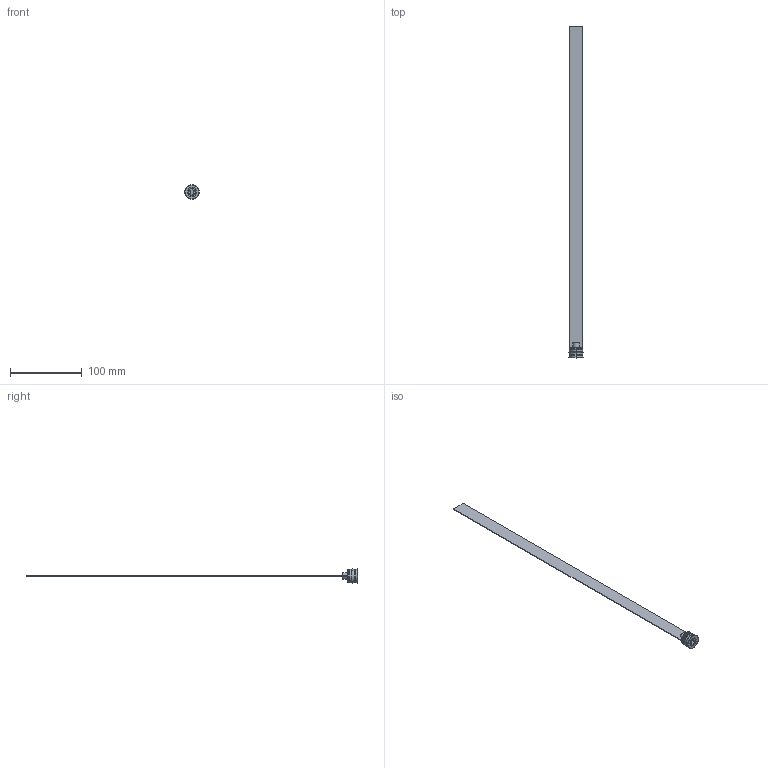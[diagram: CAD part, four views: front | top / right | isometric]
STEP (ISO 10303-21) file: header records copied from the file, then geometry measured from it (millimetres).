
FILE_DESCRIPTION (( 'STEP AP203' ), '1' );
FILE_NAME ('RL-19Fx450.STEP', '2015-12-04T10:04:26', ( 'Balzi' ), ( '' ), 'SwSTEP 2.0', 'SolidWorks 2015', '' );
FILE_SCHEMA (( 'CONFIG_CONTROL_DESIGN' ));
Length unit declared in the file: millimetre
Products named in the file (1): RL-19Fx450
Bounding box: 20.5 x 464 x 20.5 mm (x, y, z)
Volume: 12526.2 mm3; surface area: 19957.4 mm2
Topology: 1 solids, 1 shells, 75 faces, 177 edges, 109 vertices
Faces by surface type: plane 31, cone 19, cylinder 17, torus 8
Entity records: 2245 total; most frequent: CARTESIAN_POINT 412, DIRECTION 386, ORIENTED_EDGE 354, EDGE_CURVE 177, AXIS2_PLACEMENT_3D 147, VERTEX_POINT 109, LINE 92, VECTOR 92
